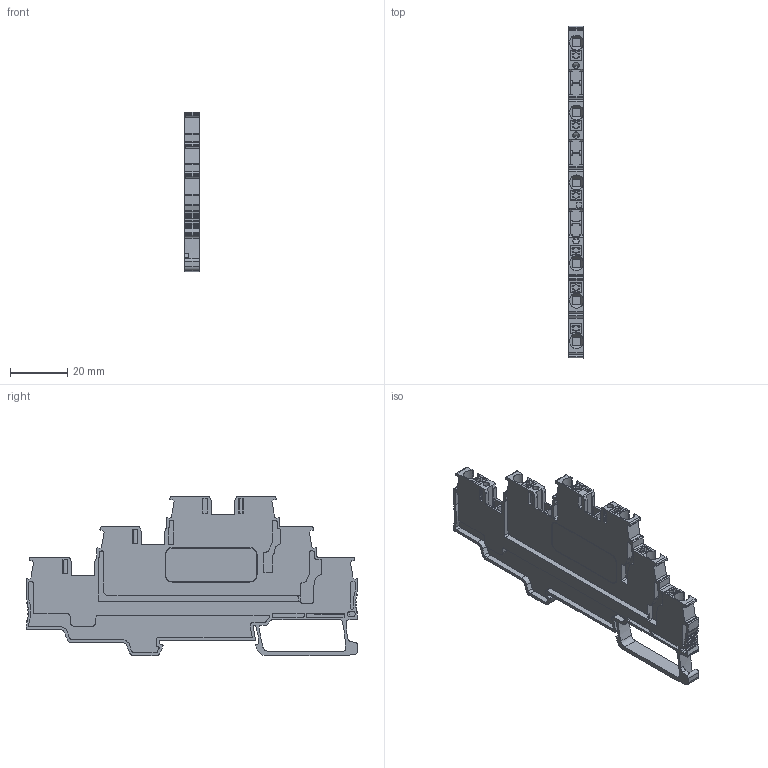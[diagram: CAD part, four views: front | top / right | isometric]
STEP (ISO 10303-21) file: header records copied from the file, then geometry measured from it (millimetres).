
FILE_DESCRIPTION(('Open CASCADE Model'),'2;1');
FILE_NAME('Open CASCADE Shape Model','2024-10-28T09:30:00',('Author'),( 'Open CASCADE'),'Open CASCADE STEP processor 6.5','Open CASCADE 6.5' ,'Unknown');
FILE_SCHEMA(('AUTOMOTIVE_DESIGN { 1 0 10303 214 1 1 1 1 }'));
Length unit declared in the file: millimetre
Products named in the file (1113): CADSOFTTOOLS 1; CADSOFTTOOLS 1.1; CADSOFTTOOLS 1.2; CADSOFTTOOLS 1.3; CADSOFTTOOLS 1.4; CADSOFTTOOLS 1.5; CADSOFTTOOLS 1.6; CADSOFTTOOLS 1.7; CADSOFTTOOLS 1.8; CADSOFTTOOLS 1.9; CADSOFTTOOLS 1.10; CADSOFTTOOLS 1.11; CADSOFTTOOLS 1.12; CADSOFTTOOLS 1.13; CADSOFTTOOLS 1.14; CADSOFTTOOLS 1.15; CADSOFTTOOLS 1.16; CADSOFTTOOLS 1.17; CADSOFTTOOLS 1.18; CADSOFTTOOLS 1.19; CADSOFTTOOLS 1.20; CADSOFTTOOLS 1.21; CADSOFTTOOLS 1.22; CADSOFTTOOLS 1.23; CADSOFTTOOLS 1.24; CADSOFTTOOLS 1.25; CADSOFTTOOLS 1.26; CADSOFTTOOLS 1.27; CADSOFTTOOLS 1.28; CADSOFTTOOLS 1.29; CADSOFTTOOLS 1.30; CADSOFTTOOLS 1.31; CADSOFTTOOLS 1.32; CADSOFTTOOLS 1.33; CADSOFTTOOLS 1.34; CADSOFTTOOLS 1.35; CADSOFTTOOLS 1.36; CADSOFTTOOLS 1.37; CADSOFTTOOLS 1.38; CADSOFTTOOLS 1.39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
Assembly tree (1112 placements, depth 2):
  CADSOFTTOOLS 1
    CADSOFTTOOLS 1.1
    CADSOFTTOOLS 1.2
    CADSOFTTOOLS 1.3
    CADSOFTTOOLS 1.4
    CADSOFTTOOLS 1.5
    CADSOFTTOOLS 1.6
    CADSOFTTOOLS 1.7
    CADSOFTTOOLS 1.8
    CADSOFTTOOLS 1.9
    CADSOFTTOOLS 1.10
    CADSOFTTOOLS 1.11
    CADSOFTTOOLS 1.12
    CADSOFTTOOLS 1.13
    CADSOFTTOOLS 1.14
    CADSOFTTOOLS 1.15
    CADSOFTTOOLS 1.16
    CADSOFTTOOLS 1.17
    CADSOFTTOOLS 1.18
    CADSOFTTOOLS 1.19
    CADSOFTTOOLS 1.20
    CADSOFTTOOLS 1.21
    CADSOFTTOOLS 1.22
    CADSOFTTOOLS 1.23
    CADSOFTTOOLS 1.24
    CADSOFTTOOLS 1.25
    CADSOFTTOOLS 1.26
    CADSOFTTOOLS 1.27
    CADSOFTTOOLS 1.28
    CADSOFTTOOLS 1.29
    CADSOFTTOOLS 1.30
    CADSOFTTOOLS 1.31
    CADSOFTTOOLS 1.32
    CADSOFTTOOLS 1.33
    CADSOFTTOOLS 1.34
    CADSOFTTOOLS 1.35
    CADSOFTTOOLS 1.36
    CADSOFTTOOLS 1.37
    CADSOFTTOOLS 1.38
    CADSOFTTOOLS 1.39
    CADSOFTTOOLS 1.40
    CADSOFTTOOLS 1.41
    CADSOFTTOOLS 1.42
    CADSOFTTOOLS 1.43
    CADSOFTTOOLS 1.44
    CADSOFTTOOLS 1.45
    CADSOFTTOOLS 1.46
    CADSOFTTOOLS 1.47
    CADSOFTTOOLS 1.48
    CADSOFTTOOLS 1.49
    CADSOFTTOOLS 1.50
    CADSOFTTOOLS 1.51
    CADSOFTTOOLS 1.52
    CADSOFTTOOLS 1.53
    CADSOFTTOOLS 1.54
    CADSOFTTOOLS 1.55
    CADSOFTTOOLS 1.56
    CADSOFTTOOLS 1.57
    CADSOFTTOOLS 1.58
    CADSOFTTOOLS 1.59
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Bounding box: 5.2 x 115.5 x 55.4 mm (x, y, z)
Surface area: 15201.5 mm2 (no closed solid volume)
Topology: 0 solids, 1112 shells, 1112 faces, 6140 edges, 6106 vertices
Faces by surface type: plane 696, cylinder 394, cone 16, torus 6
Full cylindrical faces by diameter (mm): 1.6 x1, 2 x6, 2.1 x6, 2.2 x3
Entity records: 137045 total; most frequent: CARTESIAN_POINT 37900, DIRECTION 15951, LINE 7705, VECTOR 7705, ORIENTED_EDGE 6174, PCURVE 6174, DEFINITIONAL_REPRESENTATION 6174, EDGE_CURVE 6140
